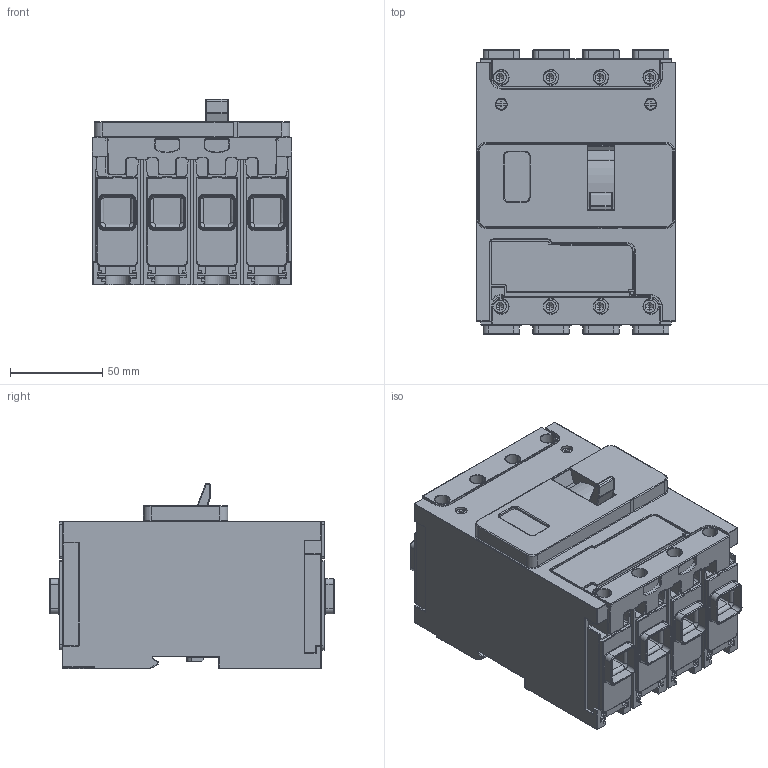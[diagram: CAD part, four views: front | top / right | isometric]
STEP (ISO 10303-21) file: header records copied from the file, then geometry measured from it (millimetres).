
FILE_DESCRIPTION((''),'2;1');
FILE_NAME('ASM0012_ASM','2020-12-17T16:37:52',('user-pc'),('Schneider-Electric'),'CREO PARAMETRIC BY PTC INC, 2018300','CREO PARAMETRIC BY PTC INC, 2018300','');
FILE_SCHEMA(('CONFIG_CONTROL_DESIGN'));
Products named in the file (2): 2222_1_2; ASM0012_ASM
Assembly tree (1 placements, depth 2):
  ASM0012_ASM
    2222_1_2
Bounding box: 108 x 154 x 100.69 mm (x, y, z)
Volume: 1155116.1 mm3; surface area: 128736.5 mm2
Topology: 1 solids, 1 shells, 2235 faces, 5849 edges, 3658 vertices
Faces by surface type: plane 950, cylinder 888, torus 273, extrusion 56, bspline 54, sphere 14
Entity records: 74325 total; most frequent: CARTESIAN_POINT 19306, ORIENTED_EDGE 11680, DIRECTION 11390, EDGE_CURVE 5840, AXIS2_PLACEMENT_3D 3947, VERTEX_POINT 3658, VECTOR 3496, LINE 3440
